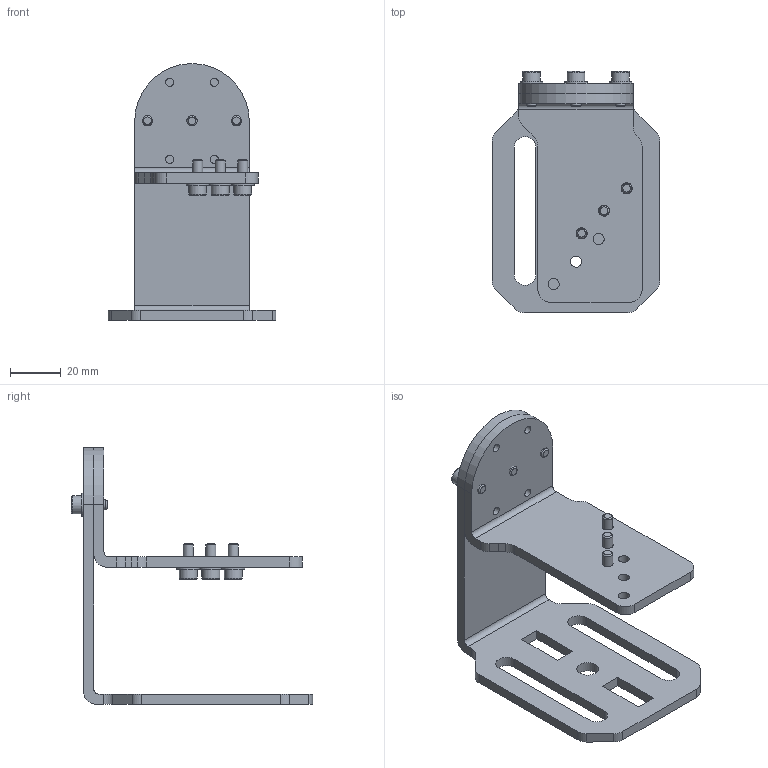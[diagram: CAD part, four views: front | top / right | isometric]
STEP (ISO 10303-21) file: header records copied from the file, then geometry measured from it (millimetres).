
FILE_DESCRIPTION(/* description */ (''),/* implementation_level */ '2;1');
FILE_NAME(/* name */ 'ASS-ADJUSTABLE-BRACKET.stp',/* time_stamp */ '2020-12-22T09:03:19+01:00',/* author */ (''),/* organization */ (''),/* preprocessor_version */ 'ST-DEVELOPER v16.7',/* originating_system */ 'SIEMENS PLM Software NX 12.0',/* authorisation */ '');
FILE_SCHEMA (('AUTOMOTIVE_DESIGN { 1 0 10303 214 3 1 1 1 }'));
Length unit declared in the file: millimetre
Products named in the file (1): ACar550CC5E2qdhc
Bounding box: 66 x 94.8 x 101 mm (x, y, z)
Volume: 53870 mm3; surface area: 34397.9 mm2
Topology: 14 solids, 14 shells, 208 faces, 529 edges, 373 vertices
Faces by surface type: plane 109, cylinder 71, cone 16, torus 12
Full cylindrical faces by diameter (mm): 3.3 x7, 4 x6, 4.3 x6, 4.35 x15, 7 x6, 8.5 x1, 9 x6
Entity records: 5963 total; most frequent: DIRECTION 1029, CARTESIAN_POINT 944, ORIENTED_EDGE 802, EDGE_CURVE 401, AXIS2_PLACEMENT_3D 393, EDGE_LOOP 361, VERTEX_POINT 308, FACE_BOUND 260
